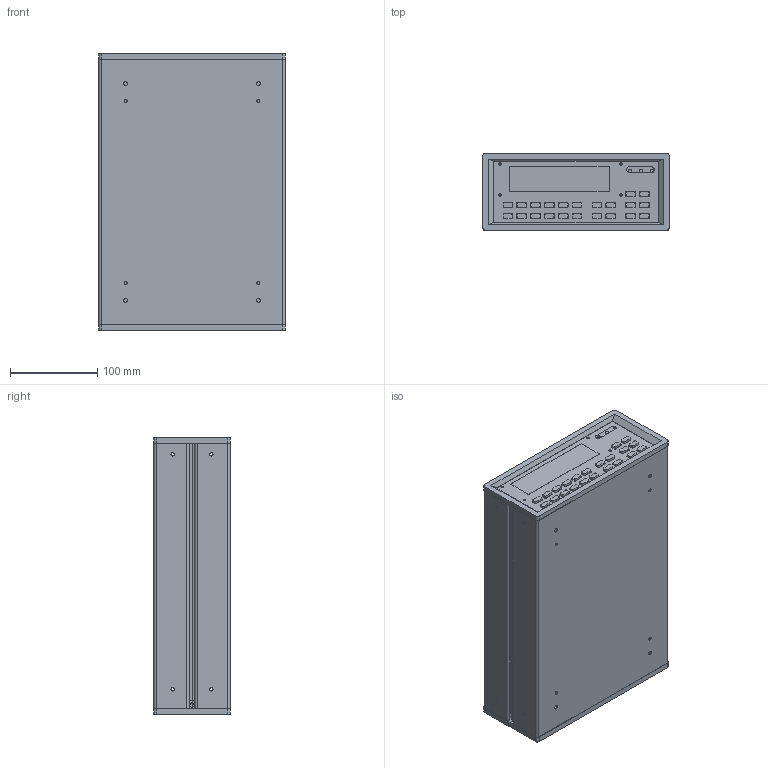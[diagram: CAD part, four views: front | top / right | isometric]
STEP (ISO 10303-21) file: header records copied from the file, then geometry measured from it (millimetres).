
FILE_DESCRIPTION (( 'STEP AP214' ), '1' );
FILE_NAME ('1475_SHELL.STEP', '2021-08-10T15:26:32', ( '' ), ( '' ), 'SwSTEP 2.0', 'SolidWorks 2020', '' );
FILE_SCHEMA (( 'AUTOMOTIVE_DESIGN' ));
Length unit declared in the file: inch
Products named in the file (10): UCHANNEL^1475_SHELL; KEYPAD^1475_SHELL; 1475_SHELL; 107-457; 107-453-01_NoVents_PEMS; REARPANEL^1475_SHELL; 107-452-01_NoVents; OVERLAY^1475_SHELL; 107-453-01_NoVents; 110-216
Assembly tree (13 placements, depth 3):
  1475_SHELL
    UCHANNEL^1475_SHELL
    REARPANEL^1475_SHELL
    OVERLAY^1475_SHELL
    KEYPAD^1475_SHELL
    107-457  x2
    107-452-01_NoVents
    107-453-01_NoVents_PEMS
      107-453-01_NoVents
    110-216  x4
Bounding box: 214.38 x 88.39 x 317.5 mm (x, y, z)
Volume: 526941.4 mm3; surface area: 688522.6 mm2
Topology: 16 solids, 16 shells, 1216 faces, 3210 edges, 2082 vertices
Faces by surface type: plane 754, cylinder 420, bspline 26, cone 16
Entity records: 32181 total; most frequent: CARTESIAN_POINT 6111, DIRECTION 5284, ORIENTED_EDGE 5212, EDGE_CURVE 2606, LINE 1774, VECTOR 1774, AXIS2_PLACEMENT_3D 1755, VERTEX_POINT 1682
